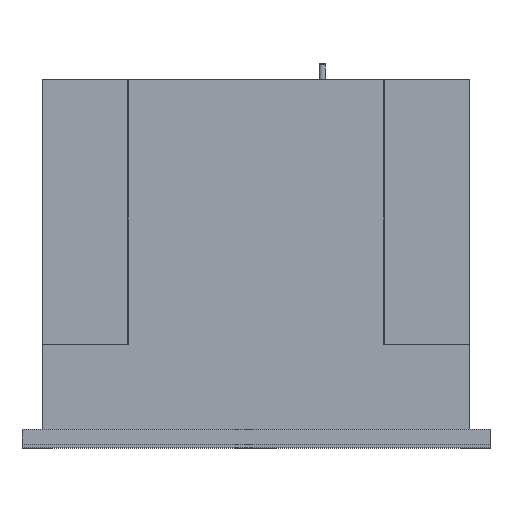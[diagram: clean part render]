
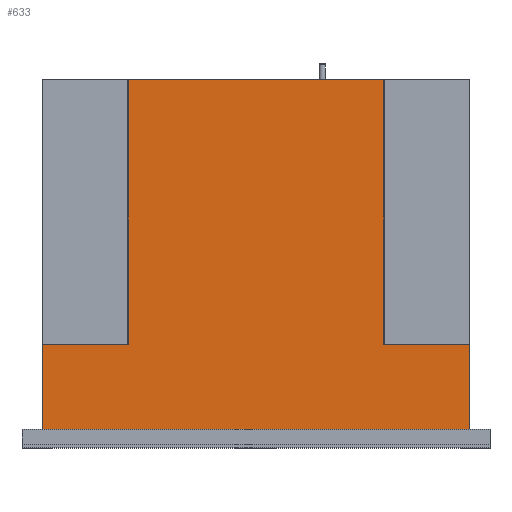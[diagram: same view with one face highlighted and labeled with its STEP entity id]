
A CAD part, top view. The second image highlights one B-rep face of the part: STEP entity #633.
In plain terms, the highlighted planar face has unit normal (0, 0, 1).
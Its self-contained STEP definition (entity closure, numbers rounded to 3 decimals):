
#413=FACE_OUTER_BOUND('',#1097,.T.);
#633=ADVANCED_FACE('',(#413),#869,.T.);
#869=PLANE('',#4274);
#1097=EDGE_LOOP('',(#1455,#1456,#1457,#1458,#1459,#1460,#1461,#1462));
#1455=ORIENTED_EDGE('',*,*,#2857,.T.);
#1456=ORIENTED_EDGE('',*,*,#2820,.T.);
#1457=ORIENTED_EDGE('',*,*,#2859,.T.);
#1458=ORIENTED_EDGE('',*,*,#2860,.T.);
#1459=ORIENTED_EDGE('',*,*,#2803,.T.);
#1460=ORIENTED_EDGE('',*,*,#2792,.T.);
#1461=ORIENTED_EDGE('',*,*,#2839,.T.);
#1462=ORIENTED_EDGE('',*,*,#2855,.T.);
#2424=VERTEX_POINT('',#5618);
#2425=VERTEX_POINT('',#5620);
#2435=VERTEX_POINT('',#5642);
#2446=VERTEX_POINT('',#5674);
#2447=VERTEX_POINT('',#5676);
#2461=VERTEX_POINT('',#5711);
#2469=VERTEX_POINT('',#5741);
#2470=VERTEX_POINT('',#5751);
#2792=EDGE_CURVE('',#2425,#2424,#3340,.T.);
#2803=EDGE_CURVE('',#2435,#2425,#3351,.T.);
#2820=EDGE_CURVE('',#2447,#2446,#3368,.T.);
#2839=EDGE_CURVE('',#2424,#2461,#3386,.T.);
#2855=EDGE_CURVE('',#2461,#2469,#3402,.T.);
#2857=EDGE_CURVE('',#2469,#2447,#3404,.T.);
#2859=EDGE_CURVE('',#2446,#2470,#3406,.T.);
#2860=EDGE_CURVE('',#2470,#2435,#3407,.T.);
#3340=LINE('',#5619,#3790);
#3351=LINE('',#5641,#3801);
#3368=LINE('',#5675,#3818);
#3386=LINE('',#5712,#3836);
#3402=LINE('',#5742,#3852);
#3404=LINE('',#5748,#3854);
#3406=LINE('',#5752,#3856);
#3407=LINE('',#5754,#3857);
#3790=VECTOR('',#4554,1.);
#3801=VECTOR('',#4567,1.);
#3818=VECTOR('',#4594,1.);
#3836=VECTOR('',#4620,1.);
#3852=VECTOR('',#4648,1.);
#3854=VECTOR('',#4658,1.);
#3856=VECTOR('',#4662,1.);
#3857=VECTOR('',#4665,1.);
#4274=AXIS2_PLACEMENT_3D('',#5757,#4670,#4671);
#4554=DIRECTION('',(1.,0.,0.));
#4567=DIRECTION('',(0.,-1.,0.));
#4594=DIRECTION('',(-1.,0.,0.));
#4620=DIRECTION('',(0.,1.,0.));
#4648=DIRECTION('',(-1.,0.,0.));
#4658=DIRECTION('',(0.,1.,0.));
#4662=DIRECTION('',(0.,-1.,0.));
#4665=DIRECTION('',(-1.,0.,0.));
#4670=DIRECTION('',(0.,0.,1.));
#4671=DIRECTION('',(-1.,0.,0.));
#5618=CARTESIAN_POINT('',(272.5,-872.4,440.));
#5619=CARTESIAN_POINT('',(-272.5,-872.4,440.));
#5620=CARTESIAN_POINT('',(-272.5,-872.4,440.));
#5641=CARTESIAN_POINT('',(-272.5,-763.4,440.));
#5642=CARTESIAN_POINT('',(-272.5,-763.4,440.));
#5674=CARTESIAN_POINT('',(-163.5,-425.4,440.));
#5675=CARTESIAN_POINT('',(163.5,-425.4,440.));
#5676=CARTESIAN_POINT('',(163.5,-425.4,440.));
#5711=CARTESIAN_POINT('',(272.5,-763.4,440.));
#5712=CARTESIAN_POINT('',(272.5,-872.4,440.));
#5741=CARTESIAN_POINT('',(163.5,-763.4,440.));
#5742=CARTESIAN_POINT('',(272.5,-763.4,440.));
#5748=CARTESIAN_POINT('',(163.5,-763.4,440.));
#5751=CARTESIAN_POINT('',(-163.5,-763.4,440.));
#5752=CARTESIAN_POINT('',(-163.5,-425.4,440.));
#5754=CARTESIAN_POINT('',(-163.5,-763.4,440.));
#5757=CARTESIAN_POINT('',(0.,-648.9,440.));
